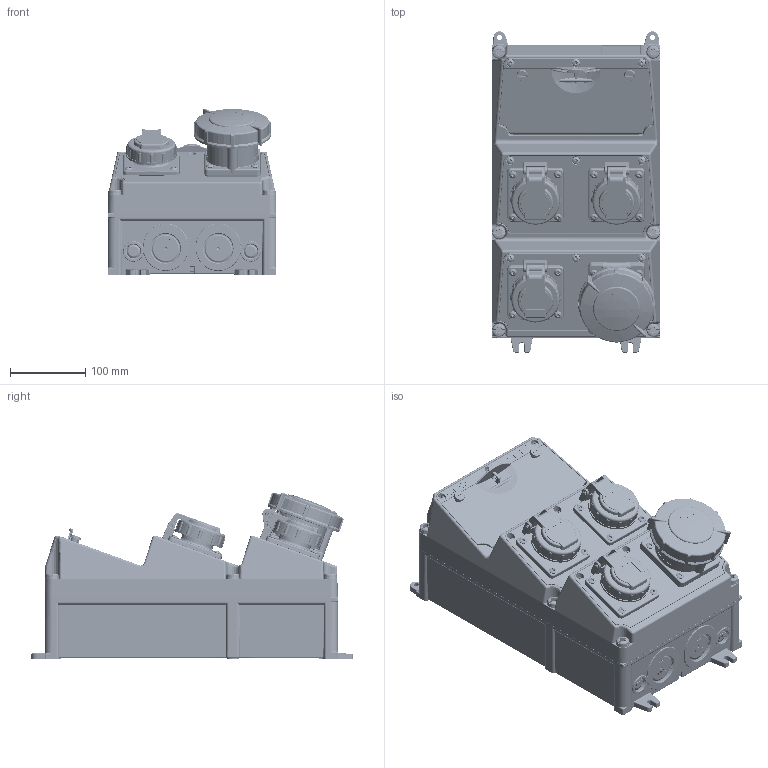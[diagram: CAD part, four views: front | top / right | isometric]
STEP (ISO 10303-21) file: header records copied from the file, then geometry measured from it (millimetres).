
FILE_DESCRIPTION((''),'2;1');
FILE_NAME('930023-1_ASM_1_ASM','2018-05-08T',('kremer'),('MENNEKES'),'PRO/ENGINEER BY PARAMETRIC TECHNOLOGY CORPORATION, 2015440','PRO/ENGINEER BY PARAMETRIC TECHNOLOGY CORPORATION, 2015440','');
FILE_SCHEMA(('AUTOMOTIVE_DESIGN { 1 0 10303 214 1 1 1 1 }'));
Products named in the file (13): 3-4_SW_O_GRAU_1; MP_FEN10_67_OBEN_GRAU_1; MP_LEER_GRAU_1; MANIFOLD_SOLID_BREP_300333; MANIFOLD_SOLID_BREP_388696; MANIFOLD_SOLID_BREP_389033; MANIFOLD_SOLID_BREP_391512; FI_4POL_4TE_1_ASM; LS_3POL_3TE_1; LS_1POL_1TE_1; FL85X75_CEE_32_5_67_ROT_1; SCHUKO_67_BLAU_1; 930023-1_ASM_1_ASM
Assembly tree (17 placements, depth 3):
  930023-1_ASM_1_ASM
    3-4_SW_O_GRAU_1
    MP_FEN10_67_OBEN_GRAU_1
    MP_LEER_GRAU_1  x2
    FI_4POL_4TE_1_ASM
      MANIFOLD_SOLID_BREP_300333
      MANIFOLD_SOLID_BREP_388696
      MANIFOLD_SOLID_BREP_389033
      MANIFOLD_SOLID_BREP_391512
    LS_3POL_3TE_1
    LS_1POL_1TE_1  x3
    FL85X75_CEE_32_5_67_ROT_1
    SCHUKO_67_BLAU_1  x3
Bounding box: 225 x 428.2 x 222.14 mm (x, y, z)
Volume: 9623120.1 mm3; surface area: 1124241.6 mm2
Topology: 16 solids, 16 shells, 12347 faces, 34252 edges, 21958 vertices
Faces by surface type: plane 5998, cylinder 3426, bspline 1078, torus 1009, cone 474, sphere 230, extrusion 132
Entity records: 490147 total; most frequent: CARTESIAN_POINT 136967, ORIENTED_EDGE 57430, DIRECTION 50422, EDGE_CURVE 28715, VERTEX_POINT 18438, AXIS2_PLACEMENT_3D 17190, PRESENTATION_STYLE_ASSIGNMENT 16096, VECTOR 16042
